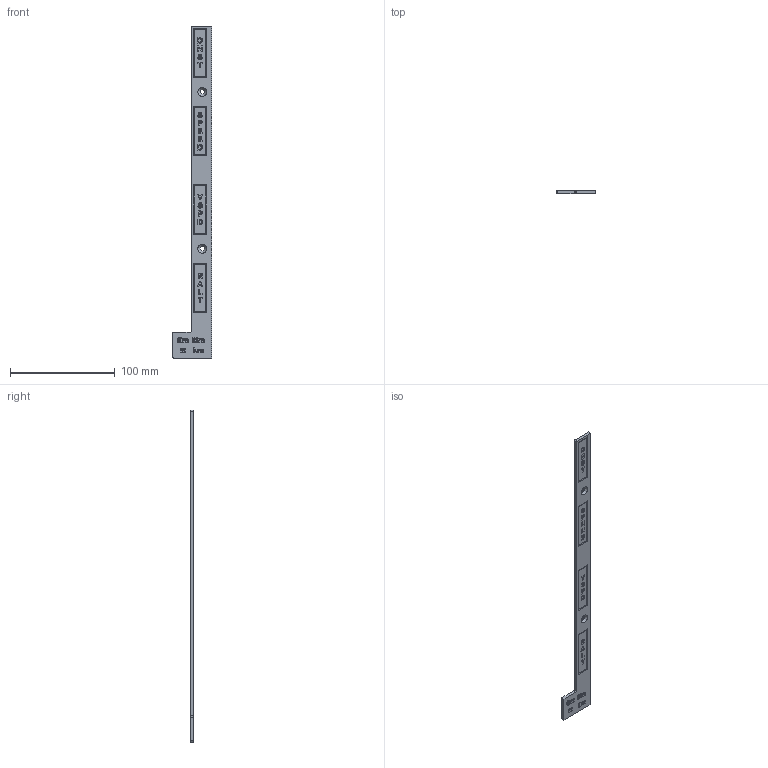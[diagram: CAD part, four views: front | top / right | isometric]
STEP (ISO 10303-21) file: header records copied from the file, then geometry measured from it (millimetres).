
FILE_DESCRIPTION(/* description */ (''),/* implementation_level */ '2;1');
FILE_NAME(/* name */ 'C:/Users/anton/Documents/Kerbal Space Program/Kerbal_Control_Panel/KCP2/CAD/STEPs/GaugeTower_AcrylicPlate_v16.step',/* time_stamp */ '2020-11-12T08:27:58-08:00',/* author */ (''),/* organization */ (''),/* preprocessor_version */ 'ST-DEVELOPER v18.1',/* originating_system */ 'Autodesk Translation Framework v9.3.0.1241',/* authorisation */ '');
FILE_SCHEMA (('AUTOMOTIVE_DESIGN { 1 0 10303 214 3 1 1 }'));
Length unit declared in the file: millimetre
Products named in the file (1): Acrylic Plate
Bounding box: 37.5 x 3.02 x 317.5 mm (x, y, z)
Volume: 19751.5 mm3; surface area: 20471.2 mm2
Topology: 12 solids, 12 shells, 566 faces, 1540 edges, 1026 vertices
Faces by surface type: plane 290, bspline 268, cylinder 6, cone 2
Full cylindrical faces by diameter (mm): 4.496 x2
Entity records: 20602 total; most frequent: CARTESIAN_POINT 8028, ORIENTED_EDGE 3080, DIRECTION 1616, EDGE_CURVE 1540, VERTEX_POINT 1026, LINE 990, VECTOR 990, EDGE_LOOP 598
